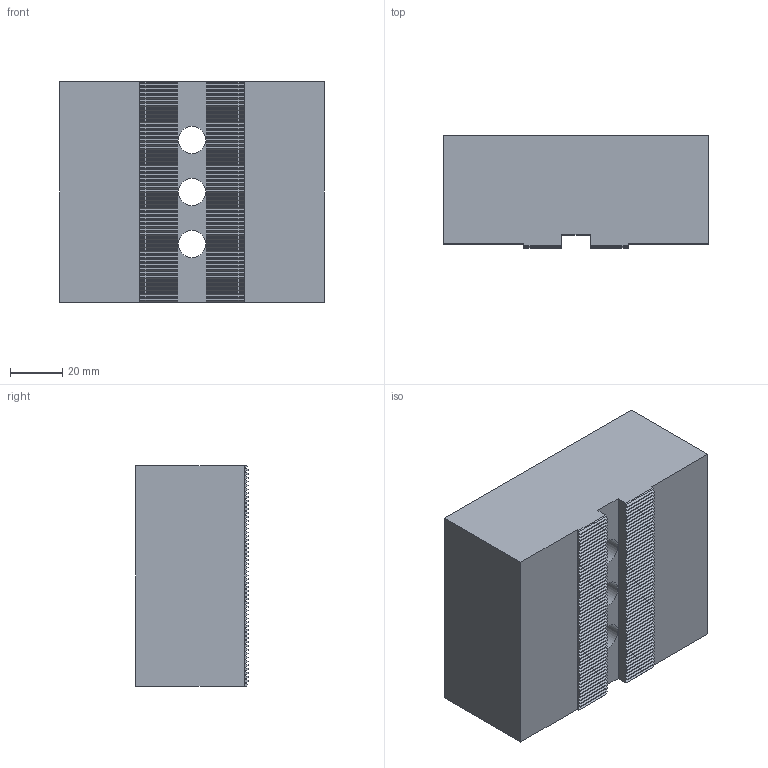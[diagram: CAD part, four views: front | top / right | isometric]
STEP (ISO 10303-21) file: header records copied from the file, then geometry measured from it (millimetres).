
FILE_DESCRIPTION (( 'STEP AP203' ), '1' );
FILE_NAME ('05-0169.STEP', '2021-09-14T23:13:38', ( '' ), ( '' ), 'SwSTEP 2.0', 'SolidWorks 2020', '' );
FILE_SCHEMA (( 'CONFIG_CONTROL_DESIGN' ));
Length unit declared in the file: inch
Products named in the file (1): 05-0169
Bounding box: 101.6 x 43.1 x 84.45 mm (x, y, z)
Volume: 331480.7 mm3; surface area: 40648.3 mm2
Topology: 1 solids, 1 shells, 477 faces, 1416 edges, 944 vertices
Faces by surface type: plane 353, cylinder 124
Entity records: 15969 total; most frequent: CARTESIAN_POINT 2838, ORIENTED_EDGE 2832, DIRECTION 2620, EDGE_CURVE 1416, VECTOR 1168, LINE 1168, VERTEX_POINT 944, AXIS2_PLACEMENT_3D 726
